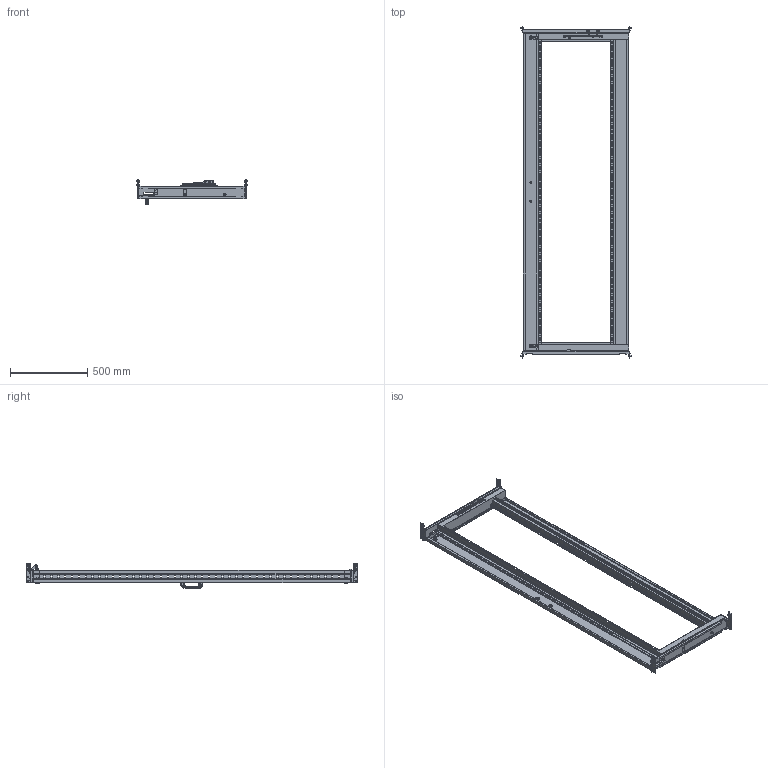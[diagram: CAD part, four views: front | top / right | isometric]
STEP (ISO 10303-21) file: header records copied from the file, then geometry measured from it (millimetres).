
FILE_DESCRIPTION(('Open CASCADE Model'),'2;1');
FILE_NAME('Open CASCADE Shape Model','2025-03-20T14:54:28',('Author'),( 'Open CASCADE'),'Open CASCADE STEP processor 7.8','Open CASCADE 7.8' ,'Unknown');
FILE_SCHEMA(('AUTOMOTIVE_DESIGN { 1 0 10303 214 1 1 1 1 }'));
Length unit declared in the file: millimetre
Products named in the file (37): Compound1; Compound2; Solid1; Solid2; Solid3; Compound3; Solid4; Solid5; Solid6; Solid7; Solid8; Solid9; Solid10; Solid11; Solid12; Solid13; Solid14; Solid15; Solid16; Solid17; Solid18; Compound4; Solid19; Solid20; Solid21; Solid22; Solid23; Solid24; Solid25; Solid26; Solid27; Solid28; Compound5; Solid29; Solid30; Solid31; Solid32
Assembly tree (59 placements, depth 3):
  Compound1
    Compound2
      Solid1
      Solid2  x2
      Solid3
    Compound3
      Solid4
      Solid2  x2
      Solid3
    Solid5  x2
    Solid6  x2
    Solid7
    Solid8
    Solid9
    Solid10
    Solid11
    Solid12
    Solid13  x2
    Solid14  x4
    Solid15  x8
    Solid16
    Solid17  x2
    Solid18  x2
    Compound4
      Solid19
      Solid20
      Solid21
      Solid22  x2
      Solid23
      Solid24  x2
      Solid25
      Solid26
      Solid27  x2
      Solid28  x2
    Compound5
      Solid29
      Solid30
    Solid31
    Solid32
Bounding box: 726 x 2155 x 165.5 mm (x, y, z)
Volume: 2801025.1 mm3; surface area: 3600992.7 mm2
Topology: 57 solids, 75 shells, 6345 faces, 17838 edges, 11577 vertices
Faces by surface type: plane 4270, cylinder 712, bspline 670, cone 439, torus 176, sphere 78
Entity records: 192917 total; most frequent: CARTESIAN_POINT 60421, ORIENTED_EDGE 28926, DIRECTION 23695, EDGE_CURVE 14633, LINE 11191, VECTOR 11191, VERTEX_POINT 9545, FACE_BOUND 6592
